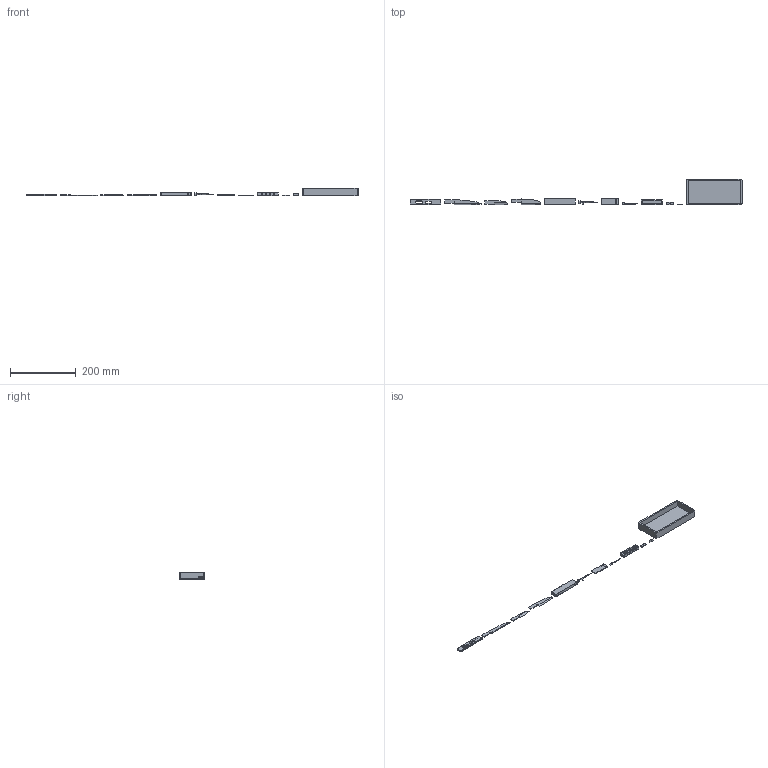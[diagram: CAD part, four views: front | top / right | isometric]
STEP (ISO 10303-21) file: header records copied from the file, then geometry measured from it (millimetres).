
FILE_DESCRIPTION(('Open CASCADE Model'),'2;1');
FILE_NAME('Open CASCADE Shape Model','2026-08-15T08:52:42',('Author'),( 'Open CASCADE'),'Open CASCADE STEP processor 7.9','Open CASCADE 7.9' ,'Unknown');
FILE_SCHEMA(('AUTOMOTIVE_DESIGN { 1 0 10303 214 1 1 1 1 }'));
Length unit declared in the file: millimetre
Products named in the file (13): SHINOBI82-KAGE-kit; 01-frame; 02-mizu; 03-kumiko; 04-nata; 05-saya; 06-spike; 07-togi; 08-tweezer; 09-cassette; 12-locator; 13-wedge; 14-chest
Assembly tree (12 placements, depth 2):
  SHINOBI82-KAGE-kit
    01-frame
    02-mizu
    03-kumiko
    04-nata
    05-saya
    06-spike
    07-togi
    08-tweezer
    09-cassette
    12-locator
    13-wedge
    14-chest
Bounding box: 1010.04 x 78 x 22 mm (x, y, z)
Volume: 114815.2 mm3; surface area: 74723.2 mm2
Topology: 12 solids, 12 shells, 267 faces, 650 edges, 412 vertices
Faces by surface type: plane 158, cylinder 72, torus 20, cone 17
Full cylindrical faces by diameter (mm): 2.2 x9, 3 x1, 3.1 x1, 3.2 x5, 8.2 x1
Entity records: 16969 total; most frequent: CARTESIAN_POINT 3713, DIRECTION 2429, LINE 1417, VECTOR 1417, ORIENTED_EDGE 1300, PCURVE 1300, DEFINITIONAL_REPRESENTATION 1300, EDGE_CURVE 650
